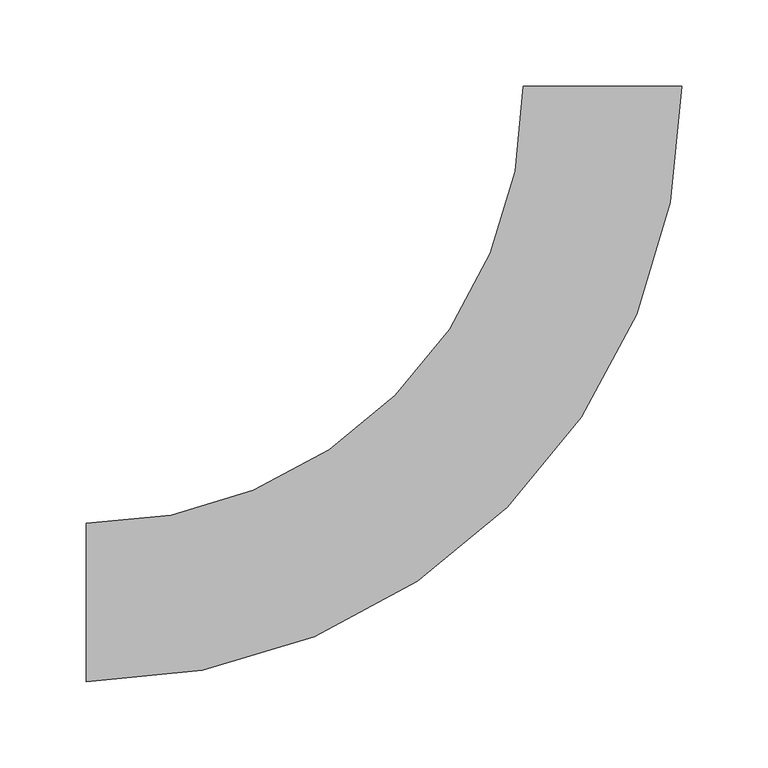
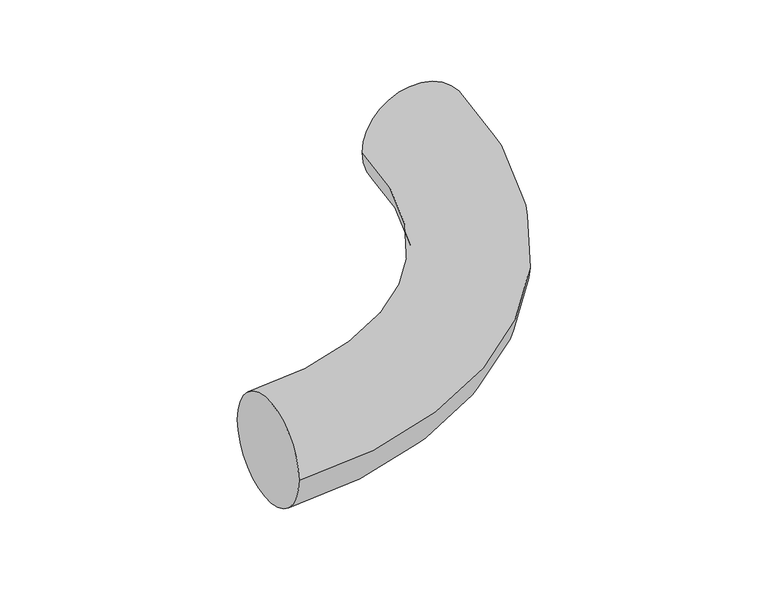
"""IFC4 building model written with IfcOpenShell, lengths in millimetres: duct segment geometry, NLRS_57_DUF_UN_Hybalans flexbend round_M&G : extract ø75 ø92 (red)."""

from ifc_helpers import new_model, si_unit, point, frame, origin, place, context, project, spatial, circle_curve, ellipse_curve, trimmed, source, transform, mapped, element, save
from ifc_brep_helpers import plane_surface, revolved_surface, advanced_brep


def duct_segment_10250bbd(model_context):
    return source(origin(), model_context, "Body", "AdvancedBrep", [
        advanced_brep(
        [(-300.0, -46.0, 0.0), (-300.0, 46.0, 0.0), (46.0, 300.0, 0.0), (-46.0, 300.0, 0.0)],
        [
            (0, 1, circle_curve(frame((-300.0, 0.0, 0.0), z_axis=(-1.0, 0.0, 0.0), x_axis=(0.0, 1.0, 0.0)), 46.0)),
            (1, 0, circle_curve(frame((-300.0, 0.0, 0.0), z_axis=(-1.0, 0.0, 0.0), x_axis=(0.0, 1.0, 0.0)), 46.0)),
            (2, 3, circle_curve(frame((0.0, 300.0, 0.0), z_axis=(0.0, 1.0, 0.0), x_axis=(-1.0, 0.0, 0.0)), 46.0)),
            (3, 2, circle_curve(frame((0.0, 300.0, 0.0), z_axis=(0.0, 1.0, 0.0), x_axis=(-1.0, 0.0, 0.0)), 46.0)),
            (3, 1, circle_curve(frame((-300.0, 300.0, 0.0), z_axis=(0.0, 0.0, -1.0), x_axis=(0.0, -1.0, 0.0)), 254.0)),
            (0, 2, circle_curve(frame((-300.0, 300.0, 0.0), z_axis=(0.0, 0.0, 1.0), x_axis=(0.0, -1.0, 0.0)), 346.0)),
        ],
        [
            plane_surface(frame((-300.0, 0.0, 0.0), z_axis=(-1.0, 0.0, 0.0), x_axis=(0.0, 0.0, 1.0))),
            plane_surface(frame((0.0, 300.0, 0.0), z_axis=(0.0, 1.0, 0.0), x_axis=(0.0, 0.0, 1.0))),
            revolved_surface(trimmed(ellipse_curve(frame((-300.0, 0.0, 0.0), z_axis=(-1.0, 0.0, 0.0), x_axis=(0.0, 1.0, 0.0)), 46.0, 46.0), [point((-300.0, -46.0, 0.0))], [point((-300.0, 46.0, 0.0))], True, "CARTESIAN"), (-300.0, 300.0, 0.0), (0.0, 0.0, 1.0)),
            revolved_surface(trimmed(ellipse_curve(frame((-300.0, 0.0, 0.0), z_axis=(-1.0, 0.0, 0.0), x_axis=(0.0, 1.0, 0.0)), 46.0, 46.0), [point((-300.0, 46.0, 0.0))], [point((-300.0, -46.0, 0.0))], True, "CARTESIAN"), (-300.0, 300.0, 0.0), (0.0, 0.0, 1.0)),
        ],
        [
            (0, [[1, 2]]),
            (1, [[3, 4]]),
            (2, [[5, -1, 6, -4]]),
            (3, [[-6, -2, -5, -3]]),
        ],
    ),
    ])


if __name__ == "__main__":
    model = new_model("IFC4")
    model_context = context("Model", 3, world=origin())
    ifc_project = project(units=[si_unit("LENGTHUNIT", "METRE", prefix="MILLI")], contexts=[model_context])
    site = spatial("IfcSite", under=ifc_project)
    building = spatial("IfcBuilding", under=site)
    placement = place(None, origin())
    duct_segment_shape = duct_segment_10250bbd(model_context)
    element("IfcDuctSegment", 1, ObjectType="NLRS_57_DUF_UN_Hybalans flexbend round_M&G : extract ø75 ø92 (red)", at=placement, inside=building, context=model_context, shape_type="MappedRepresentation", body=[
        mapped(duct_segment_shape, transform((0.0, 0.0, 0.0), x_axis=(1.0, 0.0, 0.0), y_axis=(0.0, 1.0, 0.0), z_axis=(0.0, 0.0, 1.0))),
    ])
    save(model, "model.ifc")
